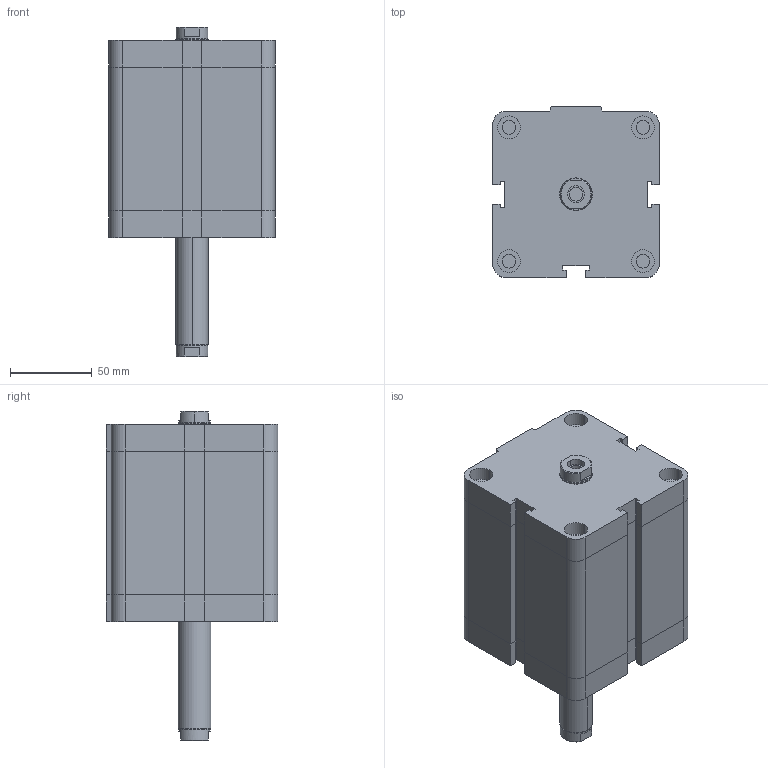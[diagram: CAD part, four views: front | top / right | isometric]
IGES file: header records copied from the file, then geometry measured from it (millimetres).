
Global section: file name: No Iges File Name specified; native system: Autodesk Inventor 2009; preprocessor: AutoDesk Inventor Iges Exporter R2009; author: maffial1; date: 20090420.200623; units: millimetre
Bounding box: 102 x 105 x 202 mm (x, y, z)
Volume: 1230492.6 mm3; surface area: 104589.8 mm2
Topology: 2 solids, 2 shells, 202 faces, 450 edges, 274 vertices
Faces by surface type: plane 114, bspline 42, revolution 20, cylinder 18, cone 8
